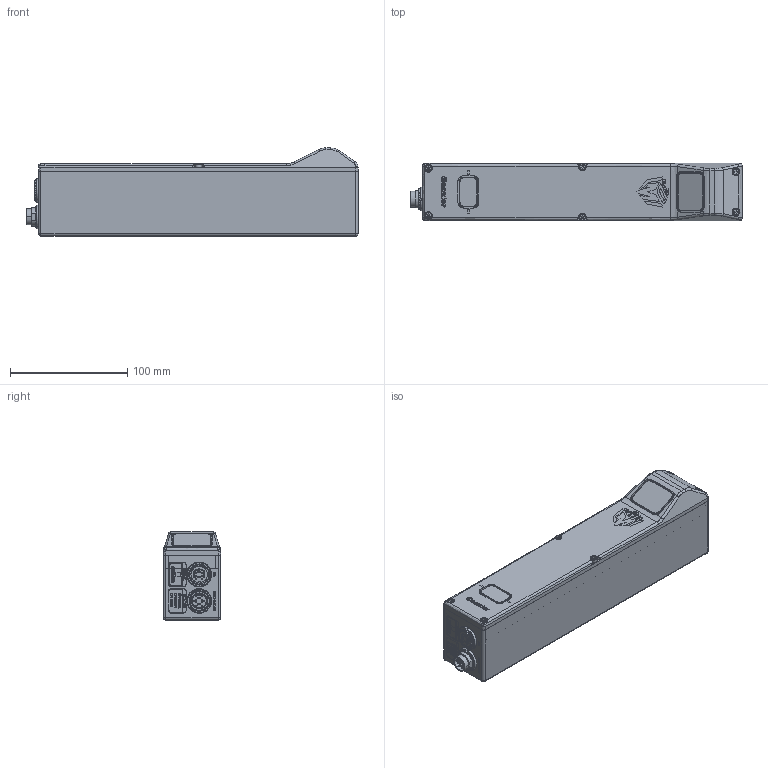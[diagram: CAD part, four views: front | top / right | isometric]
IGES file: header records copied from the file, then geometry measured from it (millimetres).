
Start section: SolidWorks IGES file using analytic representation for surfaces
Global section: file name: C:\Users\RMansour\Desktop\PROJECTS\Gocator Design\Marketing IGES Files\2350.IGS; native system: SolidWorks 2012; preprocessor: SolidWorks 2012; author: RMansour; date: 130410.171329; units: millimetre
Bounding box: 282.75 x 49 x 75 mm (x, y, z)
Surface area: 112616.7 mm2 (no closed solid volume)
Topology: 0 solids, 0 shells, 1724 faces, 26260 edges, 30385 vertices
Faces by surface type: bspline 1260, revolution 464
